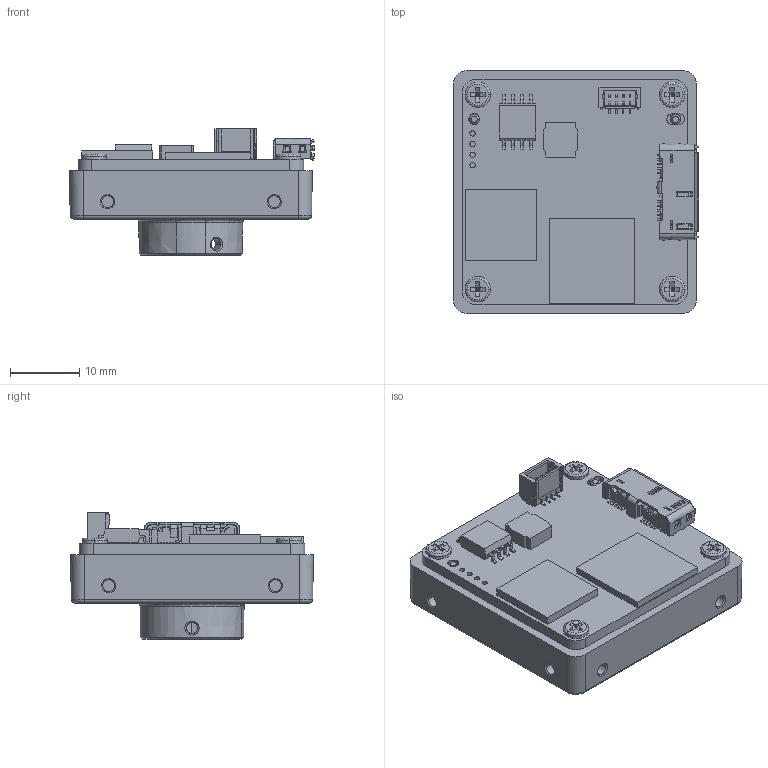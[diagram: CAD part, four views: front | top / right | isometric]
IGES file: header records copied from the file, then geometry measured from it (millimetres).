
Start section:  PTC IGES file: MV-CB013-A0UM-S.igs
Global section: file name: MV-CB013-A0UM-S.igs; native system: Creo Parametric by PTC Inc.; preprocessor: 2017260; author: wangyijun6; organization: Unknown; date: 20211208.130821; units: millimetre
Bounding box: 35.32 x 35 x 18.22 mm (x, y, z)
Volume: 10785.2 mm3; surface area: 6084 mm2
Topology: 2 solids, 27 shells, 1777 faces, 5248 edges, 3478 vertices
Faces by surface type: bspline 1128, revolution 649
